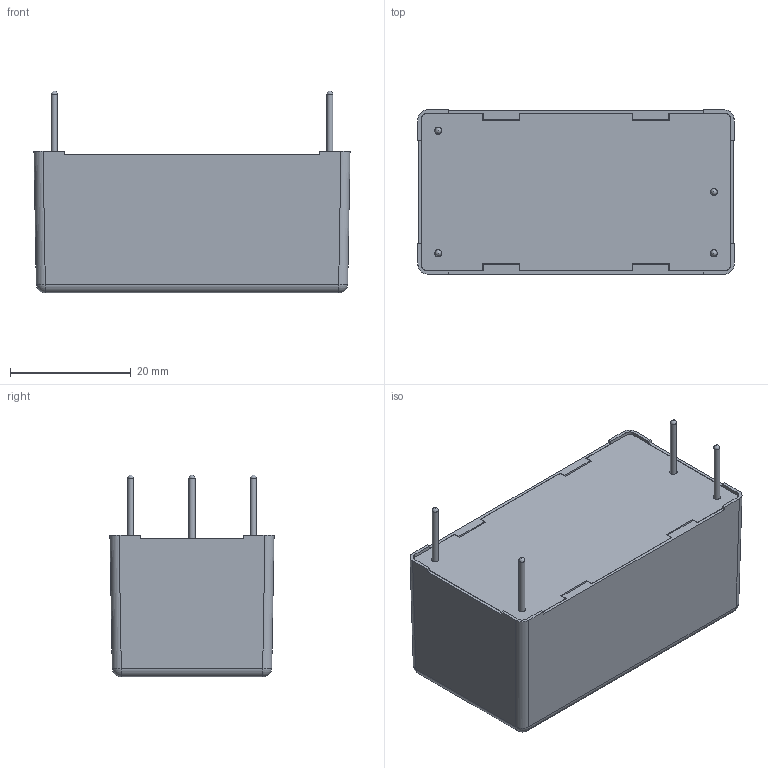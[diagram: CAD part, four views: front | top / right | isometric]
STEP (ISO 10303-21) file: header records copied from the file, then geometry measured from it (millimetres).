
FILE_DESCRIPTION(/* description */ (''),/* implementation_level */ '2;1');
FILE_NAME(/* name */ 'C:\Users\User\Desktop\TMPM 10.stp',/* time_stamp */ '2021-08-03T13:05:08+08:00',/* author */ ('User'),/* organization */ (''),/* preprocessor_version */ 'ST-DEVELOPER v16.1',/* originating_system */ 'Autodesk Inventor 2016',/* authorisation */ '');
FILE_SCHEMA (('AUTOMOTIVE_DESIGN { 1 0 10303 214 3 1 1 }'));
Length unit declared in the file: millimetre
Products named in the file (3): CASE; BASE; TMPM 10
Assembly tree (2 placements, depth 2):
  TMPM 10
    CASE
    BASE
Bounding box: 52.42 x 27.22 x 33.5 mm (x, y, z)
Volume: 31962.8 mm3; surface area: 9430.1 mm2
Topology: 2 solids, 5 shells, 136 faces, 364 edges, 232 vertices
Faces by surface type: plane 101, cylinder 27, sphere 8
Full cylindrical faces by diameter (mm): 1 x4, 1.2 x4
Entity records: 4107 total; most frequent: CARTESIAN_POINT 705, ORIENTED_EDGE 698, DIRECTION 676, EDGE_CURVE 340, LINE 286, VECTOR 286, VERTEX_POINT 224, AXIS2_PLACEMENT_3D 195
